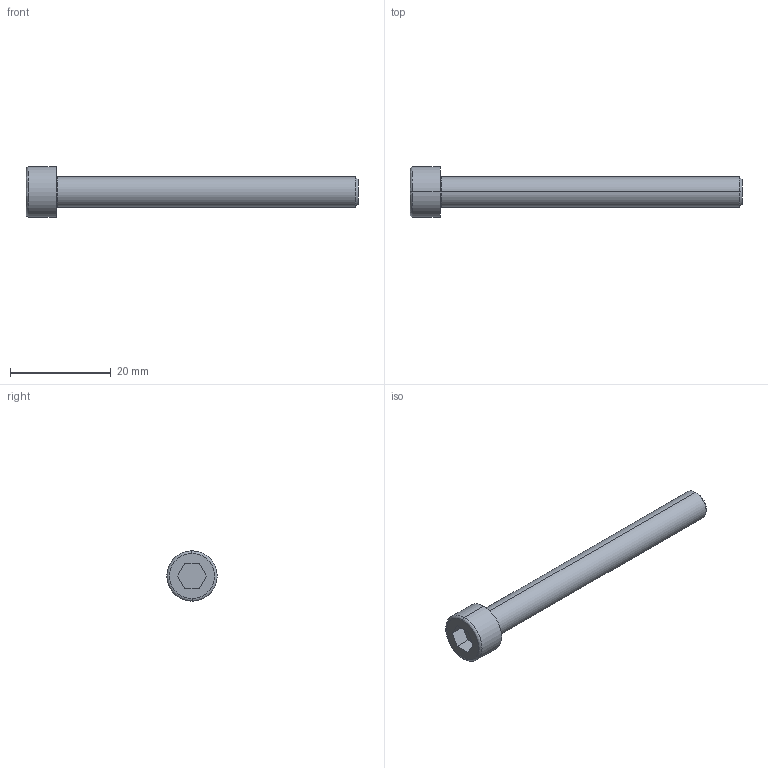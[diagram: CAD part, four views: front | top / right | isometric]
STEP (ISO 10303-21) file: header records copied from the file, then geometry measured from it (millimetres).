
FILE_DESCRIPTION (( 'STEP AP203' ), '1' );
FILE_NAME ('034 Vis CHc M6x60.STEP', '2021-10-27T18:28:38', ( '' ), ( '' ), 'SwSTEP 2.0', 'SolidWorks 2019', '' );
FILE_SCHEMA (( 'CONFIG_CONTROL_DESIGN' ));
Length unit declared in the file: millimetre
Products named in the file (1): 034 Vis CHc M6x60
Bounding box: 66 x 10 x 10 mm (x, y, z)
Volume: 2085.1 mm3; surface area: 2076 mm2
Topology: 1 solids, 1 shells, 27 faces, 59 edges, 36 vertices
Faces by surface type: plane 13, cylinder 8, bspline 4, cone 2
Entity records: 859 total; most frequent: CARTESIAN_POINT 183, DIRECTION 132, ORIENTED_EDGE 118, EDGE_CURVE 59, AXIS2_PLACEMENT_3D 49, VERTEX_POINT 36, LINE 34, VECTOR 34
